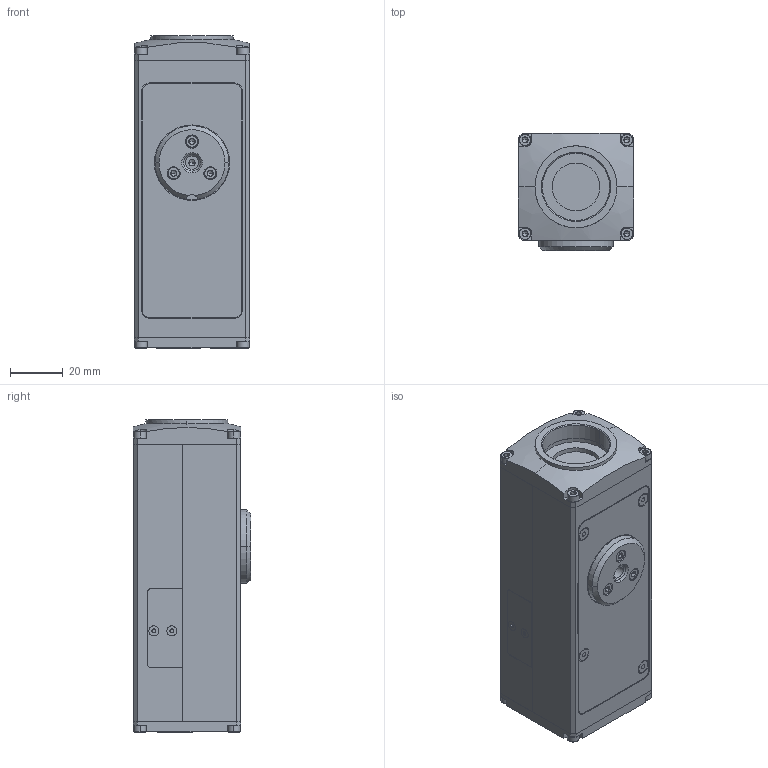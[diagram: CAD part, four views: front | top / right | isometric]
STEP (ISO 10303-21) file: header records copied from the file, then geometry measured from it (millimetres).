
FILE_DESCRIPTION(/* description */ ('VariCAD 2010-2.03 AP-203'),/* implementation_level */ '2;1');
FILE_NAME(/* name */ '10353-10369-assy',/* time_stamp */ '2011-01-11T17:13:16-07:00',/* author */ (''),/* organization */ (''),/* preprocessor_version */ 'ST-DEVELOPER v12',/* originating_system */ 'VariCAD 2010-2.03; kernel version (20100102)',/* authorisation */ '');
FILE_SCHEMA (('CONFIG_CONTROL_DESIGN'));
Length unit declared in the file: millimetre
Products named in the file (1): Part
Bounding box: 43.5 x 44.3 x 118.04 mm (x, y, z)
Volume: 96962.6 mm3; surface area: 105178.9 mm2
Topology: 111 solids, 111 shells, 7072 faces, 17658 edges, 11026 vertices
Faces by surface type: plane 5211, cylinder 1342, cone 455, torus 34, sphere 22, bspline 8
Entity records: 209471 total; most frequent: CARTESIAN_POINT 38722, ORIENTED_EDGE 35228, DIRECTION 34547, EDGE_CURVE 17614, LINE 14105, VECTOR 14105, VERTEX_POINT 11026, AXIS2_PLACEMENT_3D 10221
